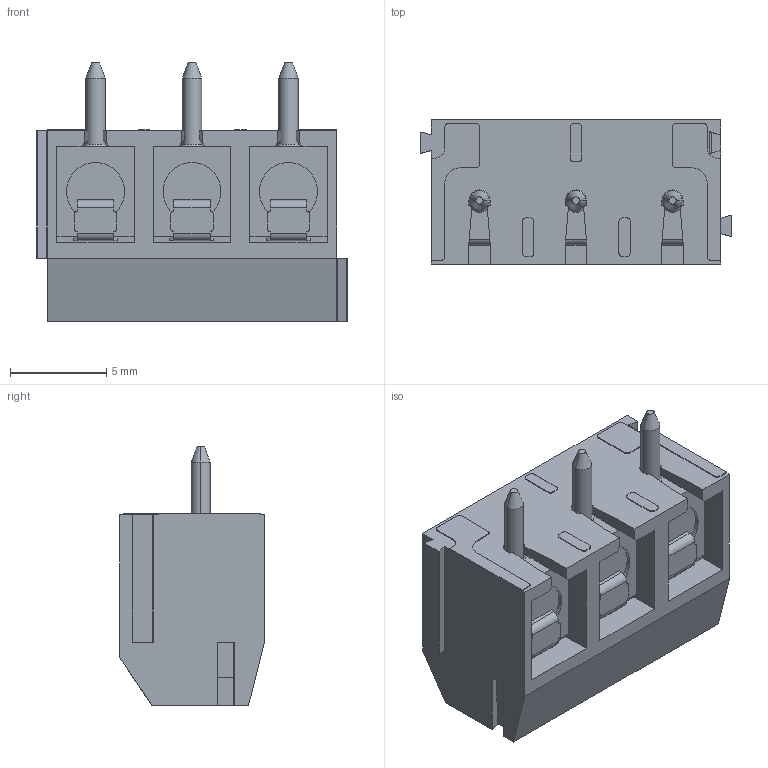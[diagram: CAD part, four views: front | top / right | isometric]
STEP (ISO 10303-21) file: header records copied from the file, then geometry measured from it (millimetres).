
FILE_DESCRIPTION((''),'2;1');
FILE_NAME('333','2019-04-15T',('zhenbing.lai'),(''),'CREO PARAMETRIC BY PTC INC, 2016260','CREO PARAMETRIC BY PTC INC, 2016260','');
FILE_SCHEMA(('CONFIG_CONTROL_DESIGN'));
Length unit declared in the file: millimetre
Products named in the file (1): 333
Bounding box: 16.1 x 7.5 x 13.45 mm (x, y, z)
Volume: 962.3 mm3; surface area: 1001.8 mm2
Topology: 1 solids, 1 shells, 388 faces, 1113 edges, 735 vertices
Faces by surface type: plane 222, cylinder 115, cone 27, bspline 12, torus 12
Entity records: 14651 total; most frequent: CARTESIAN_POINT 4476, ORIENTED_EDGE 2226, DIRECTION 2008, EDGE_CURVE 1113, VERTEX_POINT 735, AXIS2_PLACEMENT_3D 690, VECTOR 628, LINE 628
